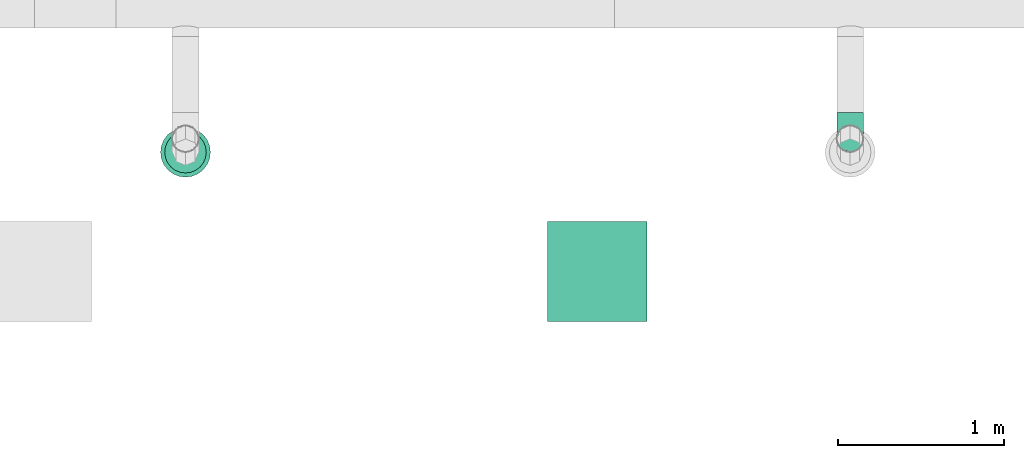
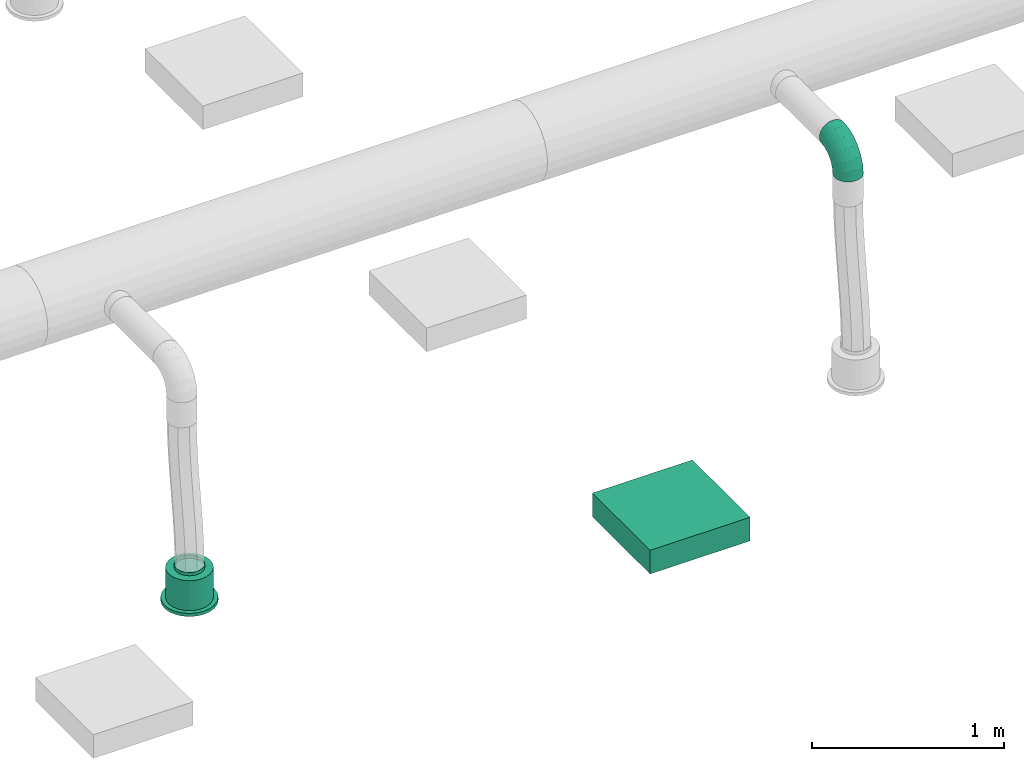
# One storey, part 66 of 374: 1 distribution element, 1 flow fitting, 1 flow terminal.
"""IFC2X3 building model written with IfcOpenShell, lengths in metres."""

import ifcopenshell
import ifcopenshell.guid

model = None  # the IFC model being written
_history = None  # IfcOwnerHistory: only IFC2X3 demands one
_inside = {}  # id of a spatial element -> (the spatial element, [elements in it])
_under = {}  # id of a project, library or spatial element -> (it, [spatial elements below it])
_declared = {}  # id of a project -> (the project, [libraries it declares])
_typed = {}  # id of a type object -> (the type object, [elements of that type])
_made_of = {}  # id of a material, layer set ... -> (it, [elements and type objects made of it])


def new_model(schema):
    """Start an empty IFC model of exactly this schema.

    Asked for "IFC4X3", IfcOpenShell would pick the latest addendum, in which some entities
    have other attributes; the version numbers below select the first issue.
    IFC2X3 requires an IfcOwnerHistory on every rooted entity: one is made here for all.
    """
    global model, _history
    if schema == "IFC4X3":
        model = ifcopenshell.file(schema_version=(4, 3, 0, 0))
    else:
        model = ifcopenshell.file(schema=schema)
    _inside.clear()
    _under.clear()
    _declared.clear()
    _typed.clear()
    _made_of.clear()
    _history = None
    if model.schema == "IFC2X3":
        org = make("IfcOrganization", Name="unknown")
        user = make(
            "IfcPersonAndOrganization",
            ThePerson=make("IfcPerson", FamilyName="unknown"),
            TheOrganization=org,
        )
        app = make(
            "IfcApplication",
            ApplicationDeveloper=org,
            Version="unknown",
            ApplicationFullName="unknown",
            ApplicationIdentifier="unknown",
        )
        _history = make(
            "IfcOwnerHistory",
            OwningUser=user,
            OwningApplication=app,
            ChangeAction="ADDED",
            CreationDate=0,
        )
    return model


def make(cls, **values):
    """One entity of the class cls with the attributes given. An attribute that is None is left unset."""
    return model.create_entity(
        cls, **{name: value for name, value in values.items() if value is not None}
    )


def rooted(cls, **values):
    """An entity with a GlobalId (a new one), such as an element, a storey or a relation."""
    return make(cls, GlobalId=ifcopenshell.guid.new(), OwnerHistory=_history, **values)


def si_unit(unit_type, name, prefix=None):
    """IfcSIUnit, for example si_unit("LENGTHUNIT", "METRE", prefix="MILLI")."""
    return make("IfcSIUnit", UnitType=unit_type, Prefix=prefix, Name=name)


def assignment(units):
    """IfcUnitAssignment: the units of a project."""
    return None if units is None else make("IfcUnitAssignment", Units=units)


def point(xyz):
    """IfcCartesianPoint."""
    return None if xyz is None else make("IfcCartesianPoint", Coordinates=xyz)


def direction(xyz):
    """IfcDirection."""
    return None if xyz is None else make("IfcDirection", DirectionRatios=xyz)


def frame(location, z_axis=None, x_axis=None):
    """IfcAxis2Placement3D, a coordinate frame: its origin and axes. An axis left out is left unset."""
    return make(
        "IfcAxis2Placement3D",
        Location=point(location),
        Axis=direction(z_axis),
        RefDirection=direction(x_axis),
    )


def frame_2d(location, x_axis=None):
    """IfcAxis2Placement2D, a coordinate frame in the plane: its origin and x axis."""
    return make(
        "IfcAxis2Placement2D", Location=point(location), RefDirection=direction(x_axis)
    )


def origin():
    """The frame at (0, 0, 0) with its axes left unset."""
    return frame((0.0, 0.0, 0.0))


def place(relative_to, where):
    """IfcLocalPlacement: puts the frame where relative to a parent placement (None: the world)."""
    return make(
        "IfcLocalPlacement", PlacementRelTo=relative_to, RelativePlacement=where
    )


def context(
    kind, dimensions, precision=None, world=None, true_north=None, identifier=None
):
    """IfcGeometricRepresentationContext, for example the 3D "Model" context."""
    return make(
        "IfcGeometricRepresentationContext",
        ContextIdentifier=identifier,
        ContextType=kind,
        CoordinateSpaceDimension=dimensions,
        Precision=precision,
        WorldCoordinateSystem=world,
        TrueNorth=true_north,
    )


def subcontext(parent, identifier, kind, view, scale=None):
    """IfcGeometricRepresentationSubContext, for example "Body" below "Model"."""
    return make(
        "IfcGeometricRepresentationSubContext",
        ContextIdentifier=identifier,
        ContextType=kind,
        ParentContext=parent,
        TargetScale=scale,
        TargetView=view,
    )


def project(units=None, contexts=None):
    """IfcProject with its units and contexts."""
    return rooted(
        "IfcProject",
        Name="project",
        RepresentationContexts=contexts,
        UnitsInContext=assignment(units),
    )


def spatial(cls, under=None, at=None, **own):
    """A site, building, storey or space (cls), placed at a placement, below another one or the project."""
    s = rooted(cls, ObjectPlacement=at, **own)
    if under is not None:
        _under.setdefault(under.id(), (under, []))[1].append(s)
    return s


def profile(cls, at=None, kind="AREA", **sizes):
    """A parametric profile (cls). Its sizes go by their IFC names, for example OverallWidth=200.0."""
    return make(cls, ProfileType=kind, Position=at, **sizes)


def rectangle(**sizes):
    """IfcRectangleProfileDef."""
    return profile("IfcRectangleProfileDef", **sizes)


def extrude(swept, where, along, depth):
    """IfcExtrudedAreaSolid: the profile swept, set in the frame where, extruded along a direction by depth."""
    return make(
        "IfcExtrudedAreaSolid",
        SweptArea=swept,
        Position=where,
        ExtrudedDirection=direction(along),
        Depth=depth,
    )


def faces_of(points, faces, orient=None, outer=None):
    """IfcFace entities. A face is a list of loops; a loop is a list of indices into points, from 0.

    orient and outer hold one flag for each loop. By default every Orientation is true, the
    first loop of a face is its IfcFaceOuterBound and the others are IfcFaceBound.
    """
    made = []
    for i, loops in enumerate(faces):
        bounds = []
        for j, loop in enumerate(loops):
            is_outer = j == 0 if outer is None else outer[i][j]
            bounds.append(
                make(
                    "IfcFaceOuterBound" if is_outer else "IfcFaceBound",
                    Bound=make("IfcPolyLoop", Polygon=[points[k] for k in loop]),
                    Orientation=True if orient is None else orient[i][j],
                )
            )
        made.append(make("IfcFace", Bounds=bounds))
    return made


def open_shell(faces, orient=None, outer=None):
    """The faces of one IfcOpenShell. surface_model builds it on its shared points."""
    return ("IfcOpenShell", faces, orient, outer)


def surface_model(cls, points, shells):
    """IfcFaceBasedSurfaceModel or IfcShellBasedSurfaceModel (cls): surfaces that need not close."""
    shared = [point(p) for p in points]
    made = [make(c, CfsFaces=faces_of(shared, fs, o, b)) for c, fs, o, b in shells]
    if cls == "IfcFaceBasedSurfaceModel":
        return make(cls, FbsmFaces=made)
    return make(cls, SbsmBoundary=made)


def shape(context_of_items, identifier, shape_type, items):
    """IfcShapeRepresentation: the items that make up one representation, for example the "Body"."""
    return make(
        "IfcShapeRepresentation",
        ContextOfItems=context_of_items,
        RepresentationIdentifier=identifier,
        RepresentationType=shape_type,
        Items=items,
    )


def source(mapping_origin, context_of_items, identifier, shape_type, items):
    """IfcRepresentationMap: a shape defined once, which mapped items show again and again."""
    return make(
        "IfcRepresentationMap",
        MappingOrigin=mapping_origin,
        MappedRepresentation=shape(context_of_items, identifier, shape_type, items),
    )


def transform(
    local_origin,
    x_axis=None,
    y_axis=None,
    z_axis=None,
    scale=None,
    scale2=None,
    scale3=None,
    uniform=True,
):
    """IfcCartesianTransformationOperator3D, or its non-uniform kind. x_axis, y_axis, z_axis: its Axis1, 2, 3."""
    if uniform:
        return make(
            "IfcCartesianTransformationOperator3D",
            Axis1=direction(x_axis),
            Axis2=direction(y_axis),
            LocalOrigin=point(local_origin),
            Scale=scale,
            Axis3=direction(z_axis),
        )
    return make(
        "IfcCartesianTransformationOperator3DnonUniform",
        Axis1=direction(x_axis),
        Axis2=direction(y_axis),
        LocalOrigin=point(local_origin),
        Scale=scale,
        Axis3=direction(z_axis),
        Scale2=scale2,
        Scale3=scale3,
    )


def mapped(mapping_source, mapping_target):
    """IfcMappedItem: shows the shape of a source again, moved by a transform."""
    return make(
        "IfcMappedItem", MappingSource=mapping_source, MappingTarget=mapping_target
    )


def made_of(thing, what):
    """Note that an element or type object is made of a material, layer set ...; save() writes the relation."""
    if what is not None:
        _made_of.setdefault(what.id(), (what, []))[1].append(thing)
    return thing


def element(
    cls,
    number,
    at=None,
    inside=None,
    cuts=None,
    type_object=None,
    material=None,
    context=None,
    identifier="Body",
    shape_type=None,
    held_by="IfcProductDefinitionShape",
    body=None,
    shapes=None,
    **own,
):
    """One element of the class cls, such as IfcWall. Its Tag is "e" and its number.

    at: its placement. inside: the storey or other place that contains it. cuts: it is an
    opening in that element (IfcRelVoidsElement). A single representation is given by context,
    identifier, shape_type and body (its items); several are given by shapes. held_by: the class
    of the entity that holds the representations. save() writes the other relations.
    """
    e = rooted(cls, Tag="e%d" % number, ObjectPlacement=at, **own)
    if body is not None:
        shapes = [shape(context, identifier, shape_type, body)]
    if shapes is not None:
        e.Representation = make(held_by, Representations=shapes)
    if inside is not None:
        _inside.setdefault(inside.id(), (inside, []))[1].append(e)
    if cuts is not None:
        rooted(
            "IfcRelVoidsElement", RelatingBuildingElement=cuts, RelatedOpeningElement=e
        )
    if type_object is not None:
        _typed.setdefault(type_object.id(), (type_object, []))[1].append(e)
    return made_of(e, material)


def aggregate(whole, parts):
    """IfcRelAggregates: a whole, such as a stair, and the parts it consists of."""
    return rooted("IfcRelAggregates", RelatingObject=whole, RelatedObjects=parts)


def save(model, path):
    """Write the relations noted so far, then the file.

    IfcRelAggregates (storeys below a building ...), IfcRelContainedInSpatialStructure (elements
    in a storey), IfcRelDefinesByType, IfcRelAssociatesMaterial and IfcRelDeclares: one each for
    every whole, place, type object, material and project.
    """
    for whole, parts in _under.values():
        aggregate(whole, parts)
    for where, things in _inside.values():
        rooted(
            "IfcRelContainedInSpatialStructure",
            RelatedElements=things,
            RelatingStructure=where,
        )
    for kind, things in _typed.values():
        rooted("IfcRelDefinesByType", RelatedObjects=things, RelatingType=kind)
    for what, things in _made_of.values():
        rooted("IfcRelAssociatesMaterial", RelatedObjects=things, RelatingMaterial=what)
    for by, libraries in _declared.values():
        rooted("IfcRelDeclares", RelatingContext=by, RelatedDefinitions=libraries)
    model.write(path)


model = new_model("IFC2X3")

# Units and contexts
model_context = context("Model", 3, precision=1e-05, world=origin(), true_north=direction((-0.4480736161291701, 0.8939966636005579)))
body_context = subcontext(model_context, "Body", "Model", "MODEL_VIEW")
ifc_project = project(units=[si_unit("LENGTHUNIT", "METRE"), si_unit("AREAUNIT", "SQUARE_METRE"), si_unit("VOLUMEUNIT", "CUBIC_METRE"), si_unit("PLANEANGLEUNIT", "RADIAN"), si_unit("THERMODYNAMICTEMPERATUREUNIT", "KELVIN"), si_unit("MASSUNIT", "GRAM", prefix="KILO"), si_unit("TIMEUNIT", "SECOND")], contexts=[model_context])

# Site, building, storey
site_placement = place(None, origin())
site = spatial("IfcSite", under=ifc_project, at=site_placement, Name="Site 1", CompositionType="ELEMENT")
building_placement = place(site_placement, origin())
building = spatial("IfcBuilding", under=site, at=building_placement, Name="Undefined", CompositionType="ELEMENT")
storey_placement = place(building_placement, origin())
storey = spatial("IfcBuildingStorey", under=building, at=storey_placement, Name="Rez de chauss\x8ee", CompositionType="ELEMENT", Elevation=0.0)

# Flow terminal
shared_shape_1 = source(origin(), body_context, "Body", "SurfaceModel", [
    surface_model("IfcFaceBasedSurfaceModel", [(0.0, 0.0, 0.0), (0.03915785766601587, 0.0, 0.0), (0.03915785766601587, 0.020000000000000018, 0.0), (3.552713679e-15, 0.020000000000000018, 0.0), (0.07698144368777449, 0.0, -0.010134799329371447), (0.07698144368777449, 0.020000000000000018, -0.010134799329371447), (0.11089314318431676, 0.0, -0.02971372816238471), (0.11089314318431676, 0.020000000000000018, -0.02971372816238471), (0.13858192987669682, 0.0, -0.05740251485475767), (0.13858192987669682, 0.020000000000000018, -0.05740251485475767), (0.15816085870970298, 0.0, -0.09131421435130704), (0.15816085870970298, 0.020000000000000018, -0.09131421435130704), (0.16829565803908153, 0.0, -0.12913780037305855), (0.16829565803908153, 0.020000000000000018, -0.12913780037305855), (0.16829565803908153, 0.0, -0.16829565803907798), (0.16829565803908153, 0.020000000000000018, -0.16829565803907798), (0.15816085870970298, 0.0, -0.20611924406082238), (0.15816085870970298, 0.020000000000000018, -0.20611924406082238), (0.13858192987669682, 0.0, -0.24003094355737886), (0.13858192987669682, 0.020000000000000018, -0.24003094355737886), (0.11089314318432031, 0.0, -0.2677197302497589), (0.11089314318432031, 0.020000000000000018, -0.2677197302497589), (0.07698144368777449, 0.0, -0.2872986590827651), (0.07698144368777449, 0.020000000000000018, -0.2872986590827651), (0.039157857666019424, 0.0, -0.29743345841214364), (0.039157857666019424, 0.020000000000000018, -0.29743345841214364), (3.552713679e-15, 0.0, -0.29743345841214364), (3.552713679e-15, 0.020000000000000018, -0.29743345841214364), (-0.03782358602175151, 0.0, -0.2872986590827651), (-0.03782358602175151, 0.020000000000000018, -0.2872986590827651), (-0.07173528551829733, 0.0, -0.2677197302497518), (-0.07173528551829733, 0.020000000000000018, -0.2677197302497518), (-0.0994240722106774, 0.0, -0.24003094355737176), (-0.0994240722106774, 0.020000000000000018, -0.24003094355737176), (-0.11900300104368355, 0.0, -0.2061192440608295), (-0.11900300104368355, 0.020000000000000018, -0.2061192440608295), (-0.1291378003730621, 0.0, -0.16829565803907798), (-0.1291378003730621, 0.020000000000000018, -0.16829565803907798), (-0.1291378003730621, 0.0, -0.12913780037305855), (-0.1291378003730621, 0.020000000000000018, -0.12913780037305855), (-0.11900300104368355, 0.0, -0.09131421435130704), (-0.11900300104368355, 0.020000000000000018, -0.09131421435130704), (-0.0994240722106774, 0.0, -0.05740251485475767), (-0.0994240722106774, 0.020000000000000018, -0.05740251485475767), (-0.07173528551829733, 0.0, -0.029713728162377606), (-0.07173528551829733, 0.020000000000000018, -0.029713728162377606), (-0.03782358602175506, 0.0, -0.010134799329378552), (-0.03782358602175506, 0.020000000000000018, -0.010134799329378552), (0.019578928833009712, 0.0, -0.14871672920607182), (0.019578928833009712, 0.020000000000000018, -0.14871672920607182), (0.003263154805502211, 0.020000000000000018, -0.02478612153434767), (0.035894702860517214, 0.020000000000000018, -0.02478612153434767), (0.035894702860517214, 0.20999999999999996, -0.02478612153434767), (0.003263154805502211, 0.20999999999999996, -0.02478612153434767), (0.06741435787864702, 0.020000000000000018, -0.033231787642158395), (0.06741435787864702, 0.20999999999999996, -0.033231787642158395), (0.0956741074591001, 0.020000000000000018, -0.04954756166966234), (0.0956741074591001, 0.20999999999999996, -0.04954756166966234), (0.11874809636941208, 0.020000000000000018, -0.07262155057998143), (0.11874809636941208, 0.20999999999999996, -0.07262155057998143), (0.13506387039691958, 0.020000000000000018, -0.10088130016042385), (0.13506387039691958, 0.20999999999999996, -0.10088130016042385), (0.1435095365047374, 0.020000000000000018, -0.13240095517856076), (0.1435095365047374, 0.20999999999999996, -0.13240095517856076), (0.1435095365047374, 0.020000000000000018, -0.16503250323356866), (0.1435095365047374, 0.20999999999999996, -0.16503250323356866), (0.13506387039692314, 0.020000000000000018, -0.19655215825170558), (0.13506387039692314, 0.20999999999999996, -0.19655215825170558), (0.11874809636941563, 0.020000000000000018, -0.2248119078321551), (0.11874809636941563, 0.20999999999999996, -0.2248119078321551), (0.09567410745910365, 0.020000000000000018, -0.24788589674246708), (0.09567410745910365, 0.20999999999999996, -0.24788589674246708), (0.06741435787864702, 0.020000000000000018, -0.26420167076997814), (0.06741435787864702, 0.20999999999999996, -0.26420167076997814), (0.035894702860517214, 0.020000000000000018, -0.27264733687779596), (0.035894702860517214, 0.20999999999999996, -0.27264733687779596), (0.0032631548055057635, 0.020000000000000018, -0.27264733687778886), (0.0032631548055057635, 0.20999999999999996, -0.27264733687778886), (-0.028256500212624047, 0.020000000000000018, -0.26420167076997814), (-0.028256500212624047, 0.20999999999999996, -0.26420167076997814), (-0.05651624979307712, 0.020000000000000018, -0.2478858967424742), (-0.05651624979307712, 0.20999999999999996, -0.2478858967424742), (-0.07959023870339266, 0.020000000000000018, -0.2248119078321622), (-0.07959023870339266, 0.20999999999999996, -0.2248119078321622), (-0.09590601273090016, 0.020000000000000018, -0.19655215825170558), (-0.09590601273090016, 0.20999999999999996, -0.19655215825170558), (-0.10435167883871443, 0.020000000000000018, -0.16503250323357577), (-0.10435167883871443, 0.20999999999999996, -0.16503250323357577), (-0.10435167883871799, 0.020000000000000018, -0.13240095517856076), (-0.10435167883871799, 0.20999999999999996, -0.13240095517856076), (-0.09590601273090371, 0.020000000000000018, -0.10088130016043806), (-0.09590601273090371, 0.20999999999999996, -0.10088130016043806), (-0.07959023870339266, 0.020000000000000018, -0.07262155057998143), (-0.07959023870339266, 0.20999999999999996, -0.07262155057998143), (-0.056516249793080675, 0.020000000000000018, -0.04954756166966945), (-0.056516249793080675, 0.20999999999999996, -0.04954756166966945), (-0.028256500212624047, 0.020000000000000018, -0.033231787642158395), (-0.028256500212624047, 0.20999999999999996, -0.033231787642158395), (0.019578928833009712, 0.20999999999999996, -0.14871672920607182), (0.009136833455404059, 0.20999999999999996, -0.06940114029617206), (0.030021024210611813, 0.20999999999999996, -0.06940114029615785), (0.030021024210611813, 0.22999999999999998, -0.06940114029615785), (0.009136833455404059, 0.22999999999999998, -0.06940114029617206), (0.05019360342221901, 0.20999999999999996, -0.07480636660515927), (0.05019360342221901, 0.22999999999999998, -0.07480636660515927), (0.06827984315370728, 0.20999999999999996, -0.08524846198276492), (0.06827984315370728, 0.22999999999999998, -0.08524846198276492), (0.0830471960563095, 0.20999999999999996, -0.10001581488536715), (0.0830471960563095, 0.22999999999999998, -0.10001581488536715), (0.0934892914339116, 0.20999999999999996, -0.11810205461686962), (0.0934892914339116, 0.22999999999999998, -0.11810205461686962), (0.09889451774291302, 0.20999999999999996, -0.13827463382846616), (0.09889451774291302, 0.22999999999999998, -0.13827463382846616), (0.09889451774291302, 0.20999999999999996, -0.15915882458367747), (0.09889451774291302, 0.22999999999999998, -0.15915882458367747), (0.09348929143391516, 0.20999999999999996, -0.179331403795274), (0.09348929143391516, 0.22999999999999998, -0.179331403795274), (0.0830471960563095, 0.20999999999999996, -0.19741764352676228), (0.0830471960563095, 0.22999999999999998, -0.19741764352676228), (0.06827984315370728, 0.20999999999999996, -0.2121849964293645), (0.06827984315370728, 0.22999999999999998, -0.2121849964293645), (0.05019360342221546, 0.20999999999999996, -0.22262709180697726), (0.05019360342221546, 0.22999999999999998, -0.22262709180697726), (0.030021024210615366, 0.20999999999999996, -0.22803231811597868), (0.030021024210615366, 0.22999999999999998, -0.22803231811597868), (0.009136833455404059, 0.20999999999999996, -0.22803231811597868), (0.009136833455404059, 0.22999999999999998, -0.22803231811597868), (-0.011035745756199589, 0.20999999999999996, -0.22262709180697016), (-0.011035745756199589, 0.22999999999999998, -0.22262709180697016), (-0.0291219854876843, 0.20999999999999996, -0.2121849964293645), (-0.0291219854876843, 0.22999999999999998, -0.2121849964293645), (-0.043889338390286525, 0.20999999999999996, -0.19741764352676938), (-0.043889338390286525, 0.22999999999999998, -0.19741764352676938), (-0.05433143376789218, 0.20999999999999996, -0.17933140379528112), (-0.05433143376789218, 0.22999999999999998, -0.17933140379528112), (-0.05973666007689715, 0.20999999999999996, -0.15915882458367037), (-0.05973666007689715, 0.22999999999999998, -0.15915882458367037), (-0.0597366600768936, 0.20999999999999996, -0.13827463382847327), (-0.0597366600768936, 0.22999999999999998, -0.13827463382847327), (-0.05433143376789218, 0.20999999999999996, -0.11810205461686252), (-0.05433143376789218, 0.22999999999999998, -0.11810205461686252), (-0.043889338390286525, 0.20999999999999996, -0.10001581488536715), (-0.043889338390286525, 0.22999999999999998, -0.10001581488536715), (-0.02912198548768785, 0.20999999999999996, -0.08524846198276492), (-0.02912198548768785, 0.22999999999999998, -0.08524846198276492), (-0.011035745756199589, 0.20999999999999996, -0.07480636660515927), (-0.011035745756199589, 0.22999999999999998, -0.07480636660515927)], [open_shell([[[0, 1, 2, 3]], [[1, 4, 5, 2]], [[4, 6, 7, 5]], [[6, 8, 9, 7]], [[8, 10, 11, 9]], [[10, 12, 13, 11]], [[12, 14, 15, 13]], [[14, 16, 17, 15]], [[16, 18, 19, 17]], [[18, 20, 21, 19]], [[20, 22, 23, 21]], [[22, 24, 25, 23]], [[24, 26, 27, 25]], [[26, 28, 29, 27]], [[28, 30, 31, 29]], [[30, 32, 33, 31]], [[32, 34, 35, 33]], [[34, 36, 37, 35]], [[36, 38, 39, 37]], [[38, 40, 41, 39]], [[40, 42, 43, 41]], [[42, 44, 45, 43]], [[44, 46, 47, 45]], [[46, 0, 3, 47]], [[48, 1, 0]], [[48, 4, 1]], [[48, 6, 4]], [[48, 8, 6]], [[48, 10, 8]], [[48, 12, 10]], [[48, 14, 12]], [[48, 16, 14]], [[48, 18, 16]], [[48, 20, 18]], [[48, 22, 20]], [[48, 24, 22]], [[48, 26, 24]], [[48, 28, 26]], [[48, 30, 28]], [[48, 32, 30]], [[48, 34, 32]], [[48, 36, 34]], [[48, 38, 36]], [[48, 40, 38]], [[48, 42, 40]], [[48, 44, 42]], [[48, 46, 44]], [[48, 0, 46]], [[49, 47, 3]], [[49, 45, 47]], [[49, 43, 45]], [[49, 41, 43]], [[49, 39, 41]], [[49, 37, 39]], [[49, 35, 37]], [[49, 33, 35]], [[49, 31, 33]], [[49, 29, 31]], [[49, 27, 29]], [[49, 25, 27]], [[49, 23, 25]], [[49, 21, 23]], [[49, 19, 21]], [[49, 17, 19]], [[49, 15, 17]], [[49, 13, 15]], [[49, 11, 13]], [[49, 9, 11]], [[49, 7, 9]], [[49, 5, 7]], [[49, 2, 5]], [[49, 3, 2]], [[50, 51, 52, 53]], [[51, 54, 55, 52]], [[54, 56, 57, 55]], [[56, 58, 59, 57]], [[58, 60, 61, 59]], [[60, 62, 63, 61]], [[62, 64, 65, 63]], [[64, 66, 67, 65]], [[66, 68, 69, 67]], [[68, 70, 71, 69]], [[70, 72, 73, 71]], [[72, 74, 75, 73]], [[74, 76, 77, 75]], [[76, 78, 79, 77]], [[78, 80, 81, 79]], [[80, 82, 83, 81]], [[82, 84, 85, 83]], [[84, 86, 87, 85]], [[86, 88, 89, 87]], [[88, 90, 91, 89]], [[90, 92, 93, 91]], [[92, 94, 95, 93]], [[94, 96, 97, 95]], [[96, 50, 53, 97]], [[49, 51, 50]], [[49, 54, 51]], [[49, 56, 54]], [[49, 58, 56]], [[49, 60, 58]], [[49, 62, 60]], [[49, 64, 62]], [[49, 66, 64]], [[49, 68, 66]], [[49, 70, 68]], [[49, 72, 70]], [[49, 74, 72]], [[49, 76, 74]], [[49, 78, 76]], [[49, 80, 78]], [[49, 82, 80]], [[49, 84, 82]], [[49, 86, 84]], [[49, 88, 86]], [[49, 90, 88]], [[49, 92, 90]], [[49, 94, 92]], [[49, 96, 94]], [[49, 50, 96]], [[98, 97, 53]], [[98, 95, 97]], [[98, 93, 95]], [[98, 91, 93]], [[98, 89, 91]], [[98, 87, 89]], [[98, 85, 87]], [[98, 83, 85]], [[98, 81, 83]], [[98, 79, 81]], [[98, 77, 79]], [[98, 75, 77]], [[98, 73, 75]], [[98, 71, 73]], [[98, 69, 71]], [[98, 67, 69]], [[98, 65, 67]], [[98, 63, 65]], [[98, 61, 63]], [[98, 59, 61]], [[98, 57, 59]], [[98, 55, 57]], [[98, 52, 55]], [[98, 53, 52]], [[99, 100, 101, 102]], [[100, 103, 104, 101]], [[103, 105, 106, 104]], [[105, 107, 108, 106]], [[107, 109, 110, 108]], [[109, 111, 112, 110]], [[111, 113, 114, 112]], [[113, 115, 116, 114]], [[115, 117, 118, 116]], [[117, 119, 120, 118]], [[119, 121, 122, 120]], [[121, 123, 124, 122]], [[123, 125, 126, 124]], [[125, 127, 128, 126]], [[127, 129, 130, 128]], [[129, 131, 132, 130]], [[131, 133, 134, 132]], [[133, 135, 136, 134]], [[135, 137, 138, 136]], [[137, 139, 140, 138]], [[139, 141, 142, 140]], [[141, 143, 144, 142]], [[143, 145, 146, 144]], [[145, 99, 102, 146]]])]),
])
flow_terminal_placement = place(storey_placement, origin())
element("IfcFlowTerminal", 1, at=flow_terminal_placement, inside=storey, Name="Air diffuseur - bouche", ObjectType="Air diffuseur - bouche", context=body_context, shape_type="MappedRepresentation", body=[
    mapped(shared_shape_1, transform((46.290001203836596, 2.0299997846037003, 2.38), x_axis=(-0.9914448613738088, -0.13052619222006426, 0.0), y_axis=(0.0, 0.0, 1.0), z_axis=(-0.13052619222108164, 0.9914448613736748, 0.0))),
])

# Flow fitting
shared_shape_2 = source(origin(), body_context, "Body", "SurfaceModel", [
    surface_model("IfcFaceBasedSurfaceModel", [(0.06265257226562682, -8.8817842e-16, 0.0), (0.062296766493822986, 0.02088115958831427, -7.105427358e-15), (0.0003558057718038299, 0.020881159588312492, 7.105427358e-15), (0.0, 0.0, 0.0), (-0.059474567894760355, 0.022956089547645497, -0.015896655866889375), (-0.06051773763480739, 0.002098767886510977, -0.01607928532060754), (-0.11311701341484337, 0.02696454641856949, -0.04660663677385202), (-0.11477645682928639, 0.006153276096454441, -0.04714207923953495), (-0.15691588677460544, 0.0326333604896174, -0.09003710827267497), (-0.15907851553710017, 0.01188721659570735, -0.09107150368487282), (-0.18788636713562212, 0.03957621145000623, -0.14322835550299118), (-0.1904048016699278, 0.01890983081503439, -0.14487384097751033), (-0.2039178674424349, 0.04731995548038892, -0.20255548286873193), (-0.20662048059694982, 0.026742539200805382, -0.20488255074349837), (0.061253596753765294, 0.04103889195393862, -0.0053597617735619), (0.0013989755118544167, 0.04103889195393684, -0.005359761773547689), (-0.05641614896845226, 0.04304393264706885, -0.02072097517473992), (-0.10825177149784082, 0.04691737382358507, -0.050396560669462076), (-0.15057538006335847, 0.05239524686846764, -0.09236417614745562), (-0.18050269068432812, 0.05910424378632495, -0.14376379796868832), (-0.19599420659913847, 0.06658715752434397, -0.20109262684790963), (0.05959415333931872, 0.05909948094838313, -0.01571402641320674), (0.003058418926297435, 0.05909948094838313, -0.01571402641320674), (-0.05155090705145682, 0.06099334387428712, -0.030223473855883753), (-0.10051228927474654, 0.06465200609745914, -0.058253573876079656), (-0.1404890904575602, 0.0698261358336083, -0.09789412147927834), (-0.16875695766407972, 0.0761631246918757, -0.14644367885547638), (-0.18338948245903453, 0.08323111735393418, -0.2005936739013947), (0.057431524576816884, 0.07383212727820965, -0.030357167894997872), (0.005221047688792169, 0.07383212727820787, -0.03035716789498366), (-0.0452104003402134, 0.07558110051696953, -0.04375657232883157), (-0.09042599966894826, 0.07895985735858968, -0.06964223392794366), (-0.12734438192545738, 0.08373814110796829, -0.10625008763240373), (-0.15344962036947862, 0.08959031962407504, -0.15108536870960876), (-0.16696268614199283, 0.0961175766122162, -0.20109262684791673), (0.054913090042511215, 0.0842328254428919, -0.048291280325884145), (0.007739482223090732, 0.08423282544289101, -0.04829128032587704), (-0.037826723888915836, 0.08581307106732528, -0.06039801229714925), (-0.07868026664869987, 0.08886587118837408, -0.08378642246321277), (-0.11203704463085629, 0.09318318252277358, -0.11686262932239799), (-0.13562384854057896, 0.09847078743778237, -0.1573725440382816), (-0.14783327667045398, 0.10436834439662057, -0.20255548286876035), (0.05221047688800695, 0.0895927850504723, -0.06829418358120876), (0.010442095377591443, 0.08959278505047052, -0.06829418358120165), (-0.029903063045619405, 0.09099196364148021, -0.07901370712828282), (-0.06607554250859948, 0.09369496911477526, -0.0997222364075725), (-0.0956102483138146, 0.0975175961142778, -0.12900851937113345), (-0.11649443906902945, 0.10219933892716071, -0.16487674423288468), (-0.12730489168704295, 0.1074211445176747, -0.2048825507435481), (0.04950786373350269, 0.08954673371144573, -0.08900271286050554), (0.013144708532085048, 0.08954673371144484, -0.08900271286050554), (-0.02197940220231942, 0.09076484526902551, -0.09833502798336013), (-0.05347081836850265, 0.09311805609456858, -0.11636367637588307), (-0.0791834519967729, 0.09644599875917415, -0.14186003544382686), (-0.09736502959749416, 0.10052187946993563, -0.17308657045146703), (-0.10677650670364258, 0.1050679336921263, -0.20791524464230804), (0.04698942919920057, 0.08409780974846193, -0.10900561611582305), (0.015663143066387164, 0.08409780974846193, -0.10900561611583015), (-0.014595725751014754, 0.08514719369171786, -0.11704525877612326), (-0.0417250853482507, 0.0871744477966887, -0.13257665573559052), (-0.06387611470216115, 0.09004141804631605, -0.15454136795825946), (-0.07953925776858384, 0.09355272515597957, -0.1814425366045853), (-0.08764709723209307, 0.09746907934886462, -0.21144689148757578), (0.04482680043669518, 0.0736173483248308, -0.12693972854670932), (0.017825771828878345, 0.0736173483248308, -0.12693972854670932), (-0.008255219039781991, 0.07452184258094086, -0.13386932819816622), (-0.03163879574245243, 0.0762691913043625, -0.14725628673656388), (-0.050731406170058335, 0.07874031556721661, -0.1661883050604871), (-0.06423192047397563, 0.08176681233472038, -0.18937519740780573), (-0.07122030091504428, 0.08514243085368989, -0.21523681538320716), (0.04316735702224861, 0.058819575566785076, -0.14158287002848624), (0.019485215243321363, 0.058819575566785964, -0.14158287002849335), (-0.0033899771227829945, 0.05961289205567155, -0.14766070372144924), (-0.02389931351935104, 0.06114546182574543, -0.15940217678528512), (-0.04064511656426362, 0.06331284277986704, -0.17600712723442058), (-0.052486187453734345, 0.06596733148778, -0.19634395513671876), (-0.05861557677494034, 0.06892802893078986, -0.2190267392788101), (0.04212418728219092, 0.040712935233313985, -0.15193713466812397), (0.020528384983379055, 0.040712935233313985, -0.15193713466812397), (-0.0003315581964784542, 0.041436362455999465, -0.15747952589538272), (-0.019034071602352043, 0.04283391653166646, -0.16818660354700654), (-0.03430460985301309, 0.04481035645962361, -0.1833286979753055), (-0.04510251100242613, 0.047230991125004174, -0.20187390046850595), (-0.05069191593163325, 0.04993085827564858, -0.22255838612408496), (0.04176838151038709, 0.02053136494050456, -0.15729689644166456), (0.020884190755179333, 0.02053136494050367, -0.15729689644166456), (0.0007116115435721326, 0.021230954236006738, -0.16265665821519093), (-0.017374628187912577, 0.022582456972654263, -0.17301092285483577), (-0.03214198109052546, 0.024493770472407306, -0.1876540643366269), (-0.042584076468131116, 0.026834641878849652, -0.20558817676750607), (-0.04798930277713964, 0.02944554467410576, -0.22559108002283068), (0.04212418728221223, -0.000349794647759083, -0.15729689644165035), (0.020528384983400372, -0.000349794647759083, -0.15729689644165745), (-0.0003315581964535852, 0.00037363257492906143, -0.1628392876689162), (-0.019034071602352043, 0.0017711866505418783, -0.17354636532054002), (-0.03430460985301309, 0.0037476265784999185, -0.18868845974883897), (-0.04510251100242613, 0.00616826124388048, -0.20723366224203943), (-0.05069191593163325, 0.008868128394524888, -0.22791814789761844), (0.04316735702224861, -0.020507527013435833, -0.15193713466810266), (0.019485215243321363, -0.020507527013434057, -0.15193713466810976), (-0.0033899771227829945, -0.019714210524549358, -0.15801496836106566), (-0.02389931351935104, -0.01818164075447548, -0.16975644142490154), (-0.04064511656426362, -0.01601425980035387, -0.186361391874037), (-0.052486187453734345, -0.013359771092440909, -0.20669821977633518), (-0.05861557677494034, -0.010399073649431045, -0.22938100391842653), (0.04482680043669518, -0.03856811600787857, -0.1415828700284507), (0.017825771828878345, -0.03856811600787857, -0.1415828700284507), (-0.008255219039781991, -0.03766362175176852, -0.1485124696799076), (-0.03163879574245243, -0.03591627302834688, -0.16189942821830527), (-0.050731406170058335, -0.03344514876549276, -0.1808314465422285), (-0.06423192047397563, -0.030418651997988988, -0.20401833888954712), (-0.07122030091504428, -0.027043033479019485, -0.22987995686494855), (0.04698942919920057, -0.05330076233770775, -0.12693972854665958), (0.015663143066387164, -0.05330076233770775, -0.12693972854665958), (-0.014595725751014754, -0.05225137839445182, -0.1349793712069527), (-0.0417250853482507, -0.05022412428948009, -0.15051076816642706), (-0.06387611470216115, -0.047357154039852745, -0.172475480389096), (-0.07953925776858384, -0.043845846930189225, -0.19937664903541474), (-0.08764709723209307, -0.03992949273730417, -0.2293810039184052), (0.04950786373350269, -0.06370146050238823, -0.10900561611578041), (0.013144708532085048, -0.06370146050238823, -0.10900561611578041), (-0.02197940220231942, -0.06248334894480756, -0.11833793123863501), (-0.05347081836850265, -0.06013013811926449, -0.13636657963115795), (-0.0791834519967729, -0.05680219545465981, -0.16186293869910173), (-0.09736502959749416, -0.05272631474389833, -0.1930894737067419), (-0.10677650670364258, -0.04818026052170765, -0.2279181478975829), (0.05221047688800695, -0.06906142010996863, -0.08900271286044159), (0.010442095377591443, -0.06906142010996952, -0.08900271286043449), (-0.029903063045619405, -0.06766224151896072, -0.09972223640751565), (-0.06607554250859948, -0.06495923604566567, -0.12043076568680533), (-0.0956102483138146, -0.06113660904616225, -0.14971704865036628), (-0.11649443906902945, -0.05645486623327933, -0.1855852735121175), (-0.12730489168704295, -0.05123306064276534, -0.22559108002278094), (0.054913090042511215, -0.06901536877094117, -0.06829418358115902), (0.007739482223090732, -0.06901536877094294, -0.06829418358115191), (-0.037826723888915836, -0.06743512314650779, -0.08040091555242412), (-0.07868026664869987, -0.06438232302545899, -0.10378932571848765), (-0.11203704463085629, -0.06006501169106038, -0.13686553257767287), (-0.13562384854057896, -0.0547774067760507, -0.17737544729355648), (-0.14783327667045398, -0.04887984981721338, -0.22255838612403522), (0.057431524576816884, -0.06356644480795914, -0.0482912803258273), (0.005221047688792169, -0.06356644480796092, -0.04829128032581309), (-0.0452104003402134, -0.061817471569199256, -0.0616906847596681), (-0.09042599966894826, -0.05843871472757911, -0.0875763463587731), (-0.12734438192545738, -0.05366043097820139, -0.12418420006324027), (-0.15344962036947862, -0.04780825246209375, -0.1690194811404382), (-0.16696268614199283, -0.041280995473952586, -0.21902673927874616), (0.05959415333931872, -0.05308598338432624, -0.030357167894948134), (0.003058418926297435, -0.05308598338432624, -0.030357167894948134), (-0.05155090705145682, -0.05119212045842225, -0.04486661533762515), (-0.10051228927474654, -0.04753345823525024, -0.07289671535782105), (-0.1404890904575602, -0.04235932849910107, -0.11253726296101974), (-0.16875695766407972, -0.03602233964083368, -0.16108682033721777), (-0.18338948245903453, -0.02895434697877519, -0.2152368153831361), (0.061253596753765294, -0.03828821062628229, -0.015714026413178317), (0.0013989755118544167, -0.03828821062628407, -0.015714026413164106), (-0.05641614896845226, -0.03628316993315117, -0.031075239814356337), (-0.10825177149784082, -0.03240972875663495, -0.06075082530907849), (-0.15057538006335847, -0.026931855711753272, -0.10271844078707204), (-0.18050269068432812, -0.02022285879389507, -0.15411806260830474), (-0.19599420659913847, -0.012739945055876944, -0.21144689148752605), (0.062296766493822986, -0.020181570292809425, -0.005359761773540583), (0.0003558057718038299, -0.020181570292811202, -0.0053597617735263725), (-0.059474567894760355, -0.018106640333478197, -0.021256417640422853), (-0.11311701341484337, -0.014098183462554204, -0.051966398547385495), (-0.15691588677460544, -0.00842936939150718, -0.09539687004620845), (-0.18788636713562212, -0.0014865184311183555, -0.14858811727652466), (-0.2039178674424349, 0.006257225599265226, -0.2079152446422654)], [open_shell([[[0, 1, 2, 3]], [[3, 2, 4, 5]], [[5, 4, 6, 7]], [[7, 6, 8, 9]], [[9, 8, 10, 11]], [[11, 10, 12, 13]], [[1, 14, 15, 2]], [[2, 15, 16, 4]], [[4, 16, 17, 6]], [[6, 17, 18, 8]], [[8, 18, 19, 10]], [[10, 19, 20, 12]], [[14, 21, 22, 15]], [[15, 22, 23, 16]], [[16, 23, 24, 17]], [[17, 24, 25, 18]], [[18, 25, 26, 19]], [[19, 26, 27, 20]], [[21, 28, 29, 22]], [[22, 29, 30, 23]], [[23, 30, 31, 24]], [[24, 31, 32, 25]], [[25, 32, 33, 26]], [[26, 33, 34, 27]], [[28, 35, 36, 29]], [[29, 36, 37, 30]], [[30, 37, 38, 31]], [[31, 38, 39, 32]], [[32, 39, 40, 33]], [[33, 40, 41, 34]], [[35, 42, 43, 36]], [[36, 43, 44, 37]], [[37, 44, 45, 38]], [[38, 45, 46, 39]], [[39, 46, 47, 40]], [[40, 47, 48, 41]], [[42, 49, 50, 43]], [[43, 50, 51, 44]], [[44, 51, 52, 45]], [[45, 52, 53, 46]], [[46, 53, 54, 47]], [[47, 54, 55, 48]], [[49, 56, 57, 50]], [[50, 57, 58, 51]], [[51, 58, 59, 52]], [[52, 59, 60, 53]], [[53, 60, 61, 54]], [[54, 61, 62, 55]], [[56, 63, 64, 57]], [[57, 64, 65, 58]], [[58, 65, 66, 59]], [[59, 66, 67, 60]], [[60, 67, 68, 61]], [[61, 68, 69, 62]], [[63, 70, 71, 64]], [[64, 71, 72, 65]], [[65, 72, 73, 66]], [[66, 73, 74, 67]], [[67, 74, 75, 68]], [[68, 75, 76, 69]], [[70, 77, 78, 71]], [[71, 78, 79, 72]], [[72, 79, 80, 73]], [[73, 80, 81, 74]], [[74, 81, 82, 75]], [[75, 82, 83, 76]], [[77, 84, 85, 78]], [[78, 85, 86, 79]], [[79, 86, 87, 80]], [[80, 87, 88, 81]], [[81, 88, 89, 82]], [[82, 89, 90, 83]], [[84, 91, 92, 85]], [[85, 92, 93, 86]], [[86, 93, 94, 87]], [[87, 94, 95, 88]], [[88, 95, 96, 89]], [[89, 96, 97, 90]], [[91, 98, 99, 92]], [[92, 99, 100, 93]], [[93, 100, 101, 94]], [[94, 101, 102, 95]], [[95, 102, 103, 96]], [[96, 103, 104, 97]], [[98, 105, 106, 99]], [[99, 106, 107, 100]], [[100, 107, 108, 101]], [[101, 108, 109, 102]], [[102, 109, 110, 103]], [[103, 110, 111, 104]], [[105, 112, 113, 106]], [[106, 113, 114, 107]], [[107, 114, 115, 108]], [[108, 115, 116, 109]], [[109, 116, 117, 110]], [[110, 117, 118, 111]], [[112, 119, 120, 113]], [[113, 120, 121, 114]], [[114, 121, 122, 115]], [[115, 122, 123, 116]], [[116, 123, 124, 117]], [[117, 124, 125, 118]], [[119, 126, 127, 120]], [[120, 127, 128, 121]], [[121, 128, 129, 122]], [[122, 129, 130, 123]], [[123, 130, 131, 124]], [[124, 131, 132, 125]], [[126, 133, 134, 127]], [[127, 134, 135, 128]], [[128, 135, 136, 129]], [[129, 136, 137, 130]], [[130, 137, 138, 131]], [[131, 138, 139, 132]], [[133, 140, 141, 134]], [[134, 141, 142, 135]], [[135, 142, 143, 136]], [[136, 143, 144, 137]], [[137, 144, 145, 138]], [[138, 145, 146, 139]], [[140, 147, 148, 141]], [[141, 148, 149, 142]], [[142, 149, 150, 143]], [[143, 150, 151, 144]], [[144, 151, 152, 145]], [[145, 152, 153, 146]], [[147, 154, 155, 148]], [[148, 155, 156, 149]], [[149, 156, 157, 150]], [[150, 157, 158, 151]], [[151, 158, 159, 152]], [[152, 159, 160, 153]], [[154, 161, 162, 155]], [[155, 162, 163, 156]], [[156, 163, 164, 157]], [[157, 164, 165, 158]], [[158, 165, 166, 159]], [[159, 166, 167, 160]], [[161, 0, 3, 162]], [[162, 3, 5, 163]], [[163, 5, 7, 164]], [[164, 7, 9, 165]], [[165, 9, 11, 166]], [[166, 11, 13, 167]]])]),
])
flow_fitting_placement = place(storey_placement, origin())
element("IfcFlowFitting", 2, at=flow_fitting_placement, inside=storey, Name="Coude", ObjectType="Coude", context=body_context, shape_type="MappedRepresentation", body=[
    mapped(shared_shape_2, transform((50.29000129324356, 1.8881775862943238, 3.702116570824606), x_axis=(9.56658874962e-13, -0.13052619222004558, -0.9914448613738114), y_axis=(0.9915887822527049, 0.12832103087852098, -0.01689378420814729), z_axis=(0.12942830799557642, -0.983105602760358, 0.1294283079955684))),
])

# Distribution element
distribution_element_placement = place(storey_placement, origin())
element("IfcDistributionElement", 3, at=distribution_element_placement, inside=storey, Name="Decken-Rechteckleuchte mit Rahmen AP", ObjectType="Decken-Rechteckleuchte mit Rahmen AP", context=body_context, shape_type="SweptSolid", body=[
    extrude(rectangle(XDim=0.6000000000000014, YDim=0.6000000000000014, at=frame_2d((3.552713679e-15, 0.0), x_axis=(0.0, 1.0))), frame((48.76792114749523, 1.1625, 2.5500000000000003), z_axis=(0.0, 0.0, -1.0), x_axis=(1.0, 0.0, 0.0)), (0.0, 0.0, 1.0), 0.15),
])

save(model, "model.ifc")
